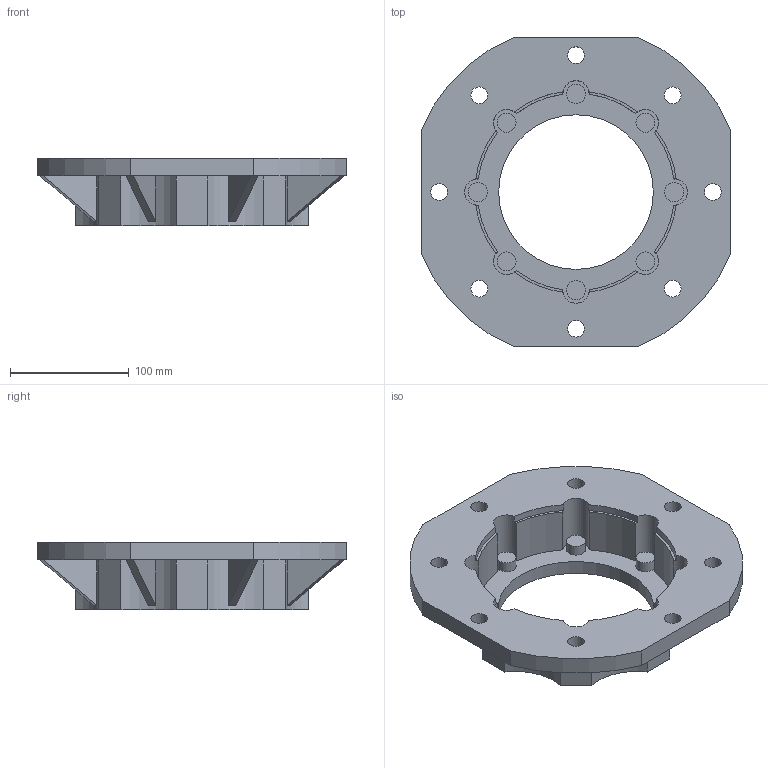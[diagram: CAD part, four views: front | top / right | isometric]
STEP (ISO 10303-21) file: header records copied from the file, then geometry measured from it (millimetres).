
FILE_DESCRIPTION(/* description */ (''),/* implementation_level */ '2;1');
FILE_NAME(/* name */ '1_FLANGIA (CAMPANA) LATERALE FA NMRV-P110',/* time_stamp */ '2025-10-09T15:35:47+02:00',/* author */ (''),/* organization */ (''),/* preprocessor_version */ 'ST-DEVELOPER v19.2',/* originating_system */ 'Rhino 8.23',/* authorisation */ '');
FILE_SCHEMA (('CONFIG_CONTROL_DESIGN'));
Length unit declared in the file: millimetre
Products named in the file (2): Document; FU 110FA-p
Bounding box: 260 x 260 x 57 mm (x, y, z)
Volume: 887094.9 mm3; surface area: 183787.5 mm2
Topology: 1 solids, 1 shells, 126 faces, 342 edges, 228 vertices
Faces by surface type: cylinder 70, plane 48, bspline 8
Entity records: 5663 total; most frequent: CARTESIAN_POINT 1398, ORIENTED_EDGE 684, DIRECTION 470, EDGE_CURVE 342, AXIS2_PLACEMENT_3D 294, VERTEX_POINT 228, TRIMMED_CURVE 172, CIRCLE 172
